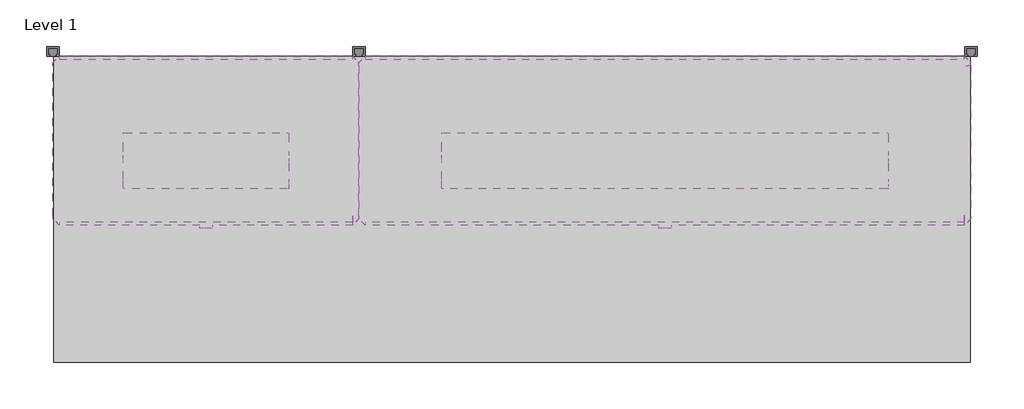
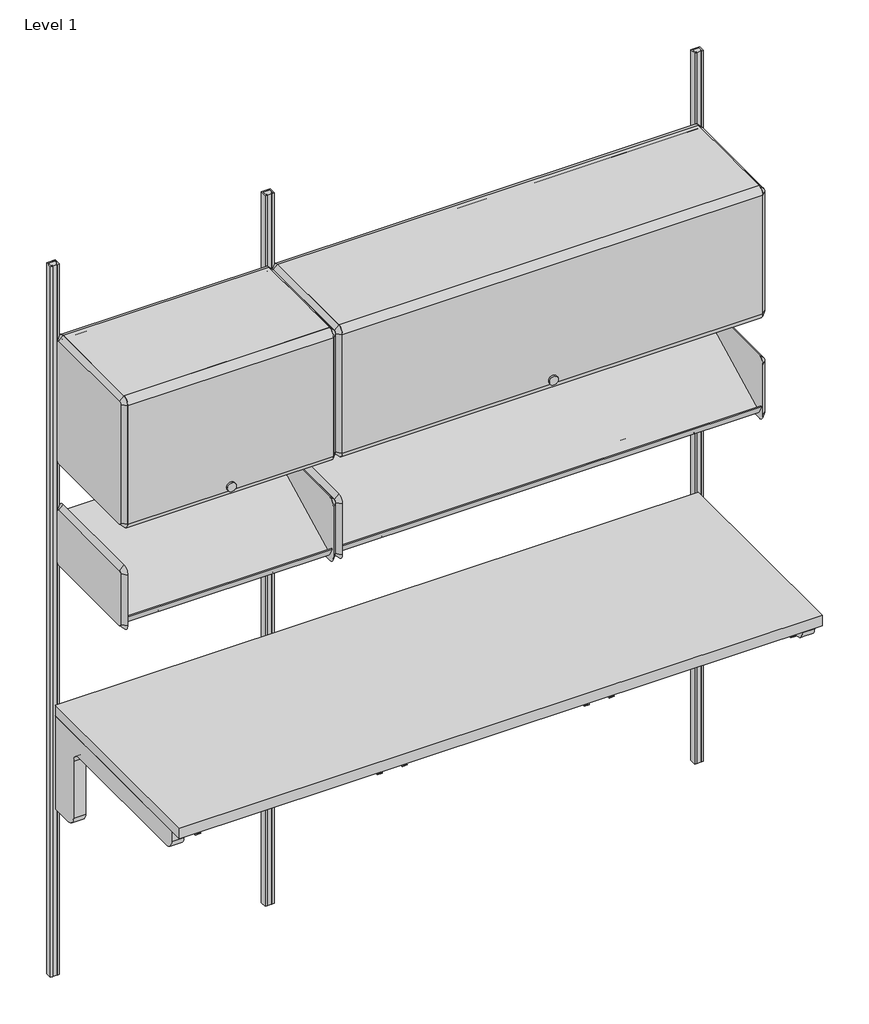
# One storey: 9 furniture elements, 2 light fixtures.
"""IFC4 building model written with IfcOpenShell, lengths in millimetres."""

from ifc_helpers import new_model, si_unit, origin, place, context, project, spatial, transform, mapped, element, save
from components import furniture_04291885, furniture_da530c35, furniture_33cd207f, furniture_439dfb7c, furniture_fea97cc0, furniture_03e73c74, furniture_ea425779, light_fixture_d29e1486, light_fixture_6c250f8a

model = new_model("IFC4")

# Units and contexts
model_context = context("Model", 3, world=origin())
ifc_project = project(units=[si_unit("LENGTHUNIT", "METRE", prefix="MILLI")], contexts=[model_context])

# Site, building, storey
site = spatial("IfcSite", under=ifc_project)
building = spatial("IfcBuilding", under=site)
storey = spatial("IfcBuildingStorey", under=building, Name="Level 1", Elevation=0.0)

# Furniture
placement = place(None, origin())
furniture_shape = furniture_04291885(model_context)
element("IfcFurniture", 1, ObjectType="HermanMiller_CoStruc_C2141_Heavy-DutyWorkSurface : 24\"D x 72\"W Lam", at=placement, inside=storey, context=model_context, shape_type="MappedRepresentation", body=[
    mapped(furniture_shape, transform((304.8, -196.85, 0.0), x_axis=(1.0, 0.0, 0.0), y_axis=(0.0, 1.0, 0.0), z_axis=(0.0, 0.0, 1.0))),
])
furniture_2_shape = furniture_da530c35(model_context)
element("IfcFurniture", 2, ObjectType="HermanMiller_CoStruc_C2140H_WorkSurfaceSupport_Heavy Duty : 11\"H x 24\"D x 72\"W", at=placement, inside=storey, context=model_context, shape_type="MappedRepresentation", body=[
    mapped(furniture_2_shape, transform((914.4, -196.85, 0.0), x_axis=(1.0, 0.0, 0.0), y_axis=(0.0, 1.0, 0.0), z_axis=(0.0, 0.0, 1.0))),
])
furniture_3_shape = furniture_33cd207f(model_context)
element("IfcFurniture", 3, ObjectType="HermanMiller_ActionOffice_A3352_B-StyleFlipperDoorUnit : 15 1/2\"H x 13\"D x 48\"W", at=placement, inside=storey, context=model_context, shape_type="MappedRepresentation", body=[
    mapped(furniture_3_shape, transform((1219.2, -200.025, 0.0), x_axis=(1.0, 0.0, 0.0), y_axis=(0.0, 1.0, 0.0), z_axis=(0.0, 0.0, 1.0))),
])
furniture_4_shape = furniture_439dfb7c(model_context)
element("IfcFurniture", 4, ObjectType="HermanMiller_ActionOffice_A3220_B-StyleStorageDisplay : Display 13\"D x 48\"W", at=placement, inside=storey, context=model_context, shape_type="MappedRepresentation", body=[
    mapped(furniture_4_shape, transform((1343.1420045, -200.025, 0.0), x_axis=(1.0, 0.0, 0.0), y_axis=(0.0, 1.0, 0.0), z_axis=(0.0, 0.0, 1.0))),
])
furniture_5_shape = furniture_fea97cc0(model_context)
element("IfcFurniture", 5, ObjectType="HermanMiller_ActionOffice_A3352_B-StyleFlipperDoorUnit : 15 1/2\"H x 13\"D x 24\"W", at=placement, inside=storey, context=model_context, shape_type="MappedRepresentation", body=[
    mapped(furniture_5_shape, transform((304.8, -200.025, 0.0), x_axis=(1.0, 0.0, 0.0), y_axis=(0.0, 1.0, 0.0), z_axis=(0.0, 0.0, 1.0))),
])
furniture_6_shape = furniture_03e73c74(model_context)
element("IfcFurniture", 6, ObjectType="HermanMiller_ActionOffice_A3220_B-StyleStorageDisplay : Display 13\"D x 24\"W", at=placement, inside=storey, context=model_context, shape_type="MappedRepresentation", body=[
    mapped(furniture_6_shape, transform((428.7420045, -200.025, 0.0), x_axis=(1.0, 0.0, 0.0), y_axis=(0.0, 1.0, 0.0), z_axis=(0.0, 0.0, 1.0))),
])
furniture_7_shape = furniture_ea425779(model_context)
element("IfcFurniture", 7, ObjectType="HermanMiller_ActionOffice_AO213_WallStrip : 84\"H", at=placement, inside=storey, context=model_context, shape_type="MappedRepresentation", body=[
    mapped(furniture_7_shape, transform((1829.241101, 0.3584451, 0.0), x_axis=(1.0, 0.0, 0.0), y_axis=(0.0, 1.0, 0.0), z_axis=(0.0, 0.0, 1.0))),
])
element("IfcFurniture", 8, ObjectType="HermanMiller_ActionOffice_AO213_WallStrip : 84\"H", at=placement, inside=storey, context=model_context, shape_type="MappedRepresentation", body=[
    mapped(furniture_7_shape, transform((609.6, 0.0, 0.0), x_axis=(1.0, 0.0, 0.0), y_axis=(0.0, 1.0, 0.0), z_axis=(0.0, 0.0, 1.0))),
])
element("IfcFurniture", 9, ObjectType="HermanMiller_ActionOffice_AO213_WallStrip : 84\"H", at=placement, inside=storey, context=model_context, shape_type="MappedRepresentation", body=[
    mapped(furniture_7_shape, transform((0.0, 0.0, 0.0), x_axis=(1.0, 0.0, 0.0), y_axis=(0.0, 1.0, 0.0), z_axis=(0.0, 0.0, 1.0))),
])

# Light fixtures
light_fixture_shape = light_fixture_d29e1486(model_context)
element("IfcLightFixture", 10, ObjectType="HermanMiller_SupplementalProducts_G6136_UtilityTaskLight : AO Etho Canvas 42W", at=placement, inside=storey, context=model_context, shape_type="MappedRepresentation", body=[
    mapped(light_fixture_shape, transform((1219.2, -227.0125, 0.0), x_axis=(1.0, 0.0, 0.0), y_axis=(0.0, 1.0, 0.0), z_axis=(0.0, 0.0, 1.0))),
])
light_fixture_2_shape = light_fixture_6c250f8a(model_context)
element("IfcLightFixture", 11, ObjectType="HermanMiller_SupplementalProducts_G6136_UtilityTaskLight : AO Etho Canvas 24W", at=placement, inside=storey, context=model_context, shape_type="MappedRepresentation", body=[
    mapped(light_fixture_2_shape, transform((304.8, -227.0125, 0.0), x_axis=(1.0, 0.0, 0.0), y_axis=(0.0, 1.0, 0.0), z_axis=(0.0, 0.0, 1.0))),
])

save(model, "model.ifc")
